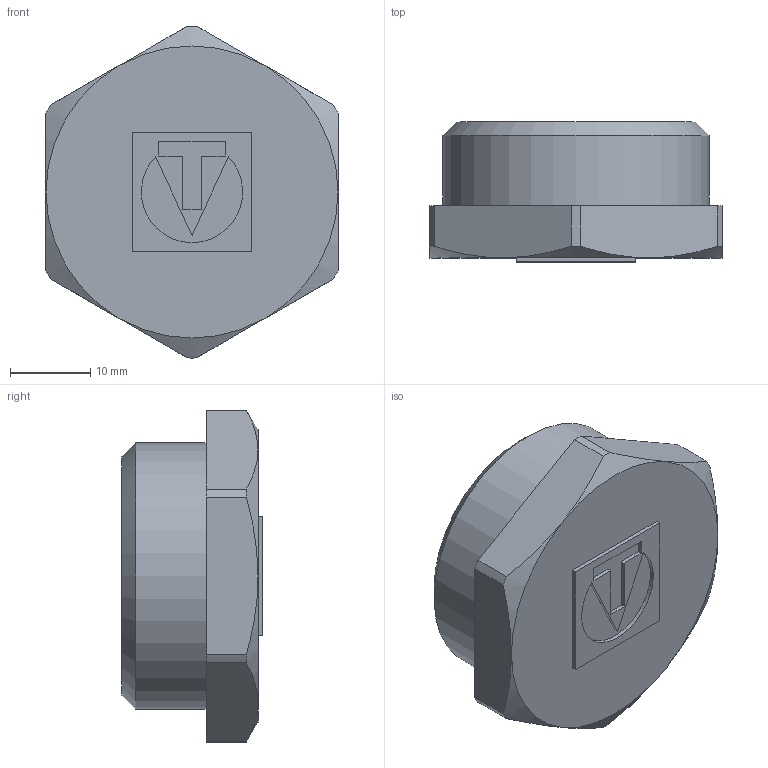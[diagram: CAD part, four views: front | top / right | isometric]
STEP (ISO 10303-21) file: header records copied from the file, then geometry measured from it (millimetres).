
FILE_DESCRIPTION(('STEP AP203'), '1');
FILE_NAME('ÂÐ.753125.005 - VTr.583.N.0006 Ïðîá. ðåçüá', '2024-07-05T13:24:58', ('Boss'), (''), 'C3D Converter', 'C3D Toolkit', '');
FILE_SCHEMA(('CONFIG_CONTROL_DESIGN'));
Length unit declared in the file: millimetre
Products named in the file (1): ВР.753125.005
Bounding box: 36.5 x 17.5 x 41.5 mm (x, y, z)
Volume: 9592.3 mm3; surface area: 5206.6 mm2
Topology: 1 solids, 1 shells, 44 faces, 103 edges, 66 vertices
Faces by surface type: plane 27, cylinder 9, cone 8
Full cylindrical faces by diameter (mm): 25 x1, 33.249 x1
Entity records: 1563 total; most frequent: CARTESIAN_POINT 537, DIRECTION 203, ORIENTED_EDGE 198, EDGE_CURVE 99, AXIS2_PLACEMENT_3D 71, VERTEX_POINT 66, LINE 61, VECTOR 61
